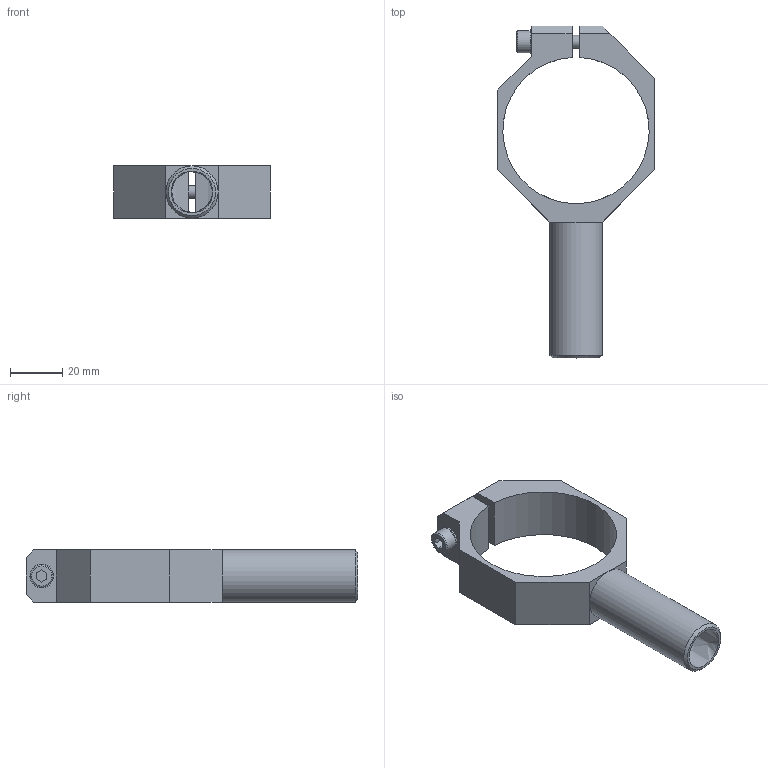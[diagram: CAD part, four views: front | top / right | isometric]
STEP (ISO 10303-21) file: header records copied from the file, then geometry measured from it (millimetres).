
FILE_DESCRIPTION((''),'2;1');
FILE_NAME('K:\Technik\CAD-Daten\EOAT\GT_\GT-NR30H.stp','2007-09-07T12:51:00',('RKob'),(''),'Autodesk Inventor 11','Autodesk Inventor 11','');
FILE_SCHEMA(('AUTOMOTIVE_DESIGN { 1 0 10303 214 1 1 1 1 }'));
Length unit declared in the file: millimetre
Products named in the file (4): GT-NR30H; GT-NR30H-1; DIN912-M5x30; Schnorr S5
Assembly tree (3 placements, depth 2):
  GT-NR30H
    GT-NR30H-1
    DIN912-M5x30
    Schnorr S5
Bounding box: 60 x 127 x 20 mm (x, y, z)
Volume: 27795 mm3; surface area: 17694.4 mm2
Topology: 3 solids, 3 shells, 46 faces, 108 edges, 70 vertices
Faces by surface type: plane 34, cylinder 6, bspline 3, cone 2, torus 1
Full cylindrical faces by diameter (mm): 5 x1, 5.3 x1, 8.5 x1, 9 x1, 20 x1
Entity records: 1474 total; most frequent: CARTESIAN_POINT 351, DIRECTION 217, ORIENTED_EDGE 190, EDGE_CURVE 95, AXIS2_PLACEMENT_3D 73, VECTOR 71, LINE 71, VERTEX_POINT 68
